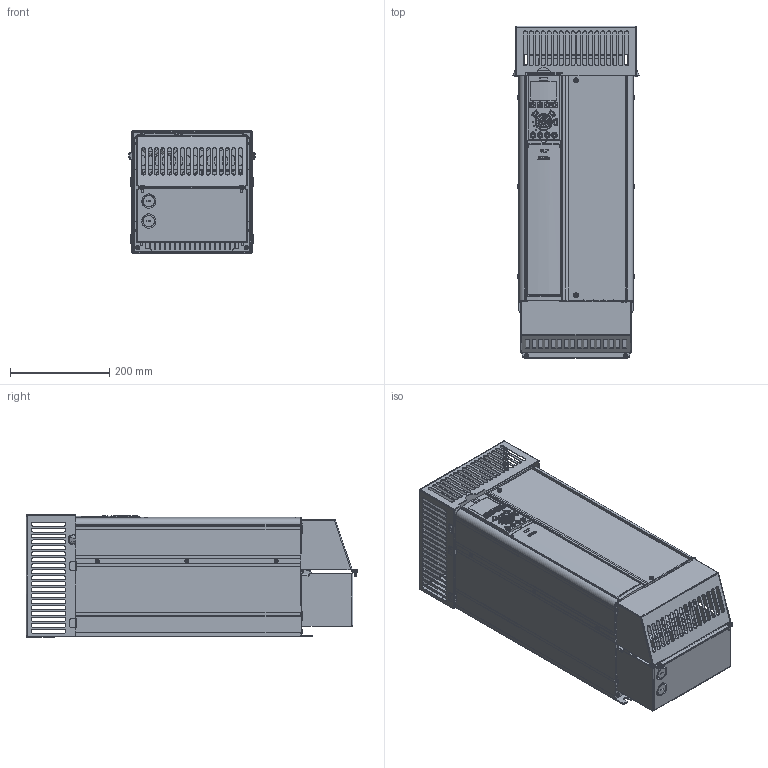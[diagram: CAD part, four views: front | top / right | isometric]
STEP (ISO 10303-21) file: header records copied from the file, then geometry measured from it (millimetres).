
FILE_DESCRIPTION((''),'2;1');
FILE_NAME('DANFOSS-FC200-B4-NEMA1-KIT-189','2008-07-15T',('Abhilash.Paramesh'),('dan Drives A/S'),'PRO/ENGINEER BY PARAMETRIC TECHNOLOGY CORPORATION, 2007160','PRO/ENGINEER BY PARAMETRIC TECHNOLOGY CORPORATION, 2007160','');
FILE_SCHEMA(('CONFIG_CONTROL_DESIGN', 'GEOMETRIC_VALIDATION_PROPERTIES_MIM'));
Products named in the file (1): DANFOSS-FC200-B4-NEMA1-KIT-189
Bounding box: 254.72 x 668 x 246 mm (x, y, z)
Volume: 22238182.2 mm3; surface area: 1825141.2 mm2
Topology: 1 solids, 33 shells, 5517 faces, 15060 edges, 9576 vertices
Faces by surface type: plane 2896, cylinder 1624, bspline 597, torus 159, sphere 88, extrusion 83, cone 70
Entity records: 238985 total; most frequent: CARTESIAN_POINT 78688, ORIENTED_EDGE 29966, DIRECTION 24575, EDGE_CURVE 14983, VERTEX_POINT 9576, VECTOR 8323, LINE 8240, AXIS2_PLACEMENT_3D 8126
